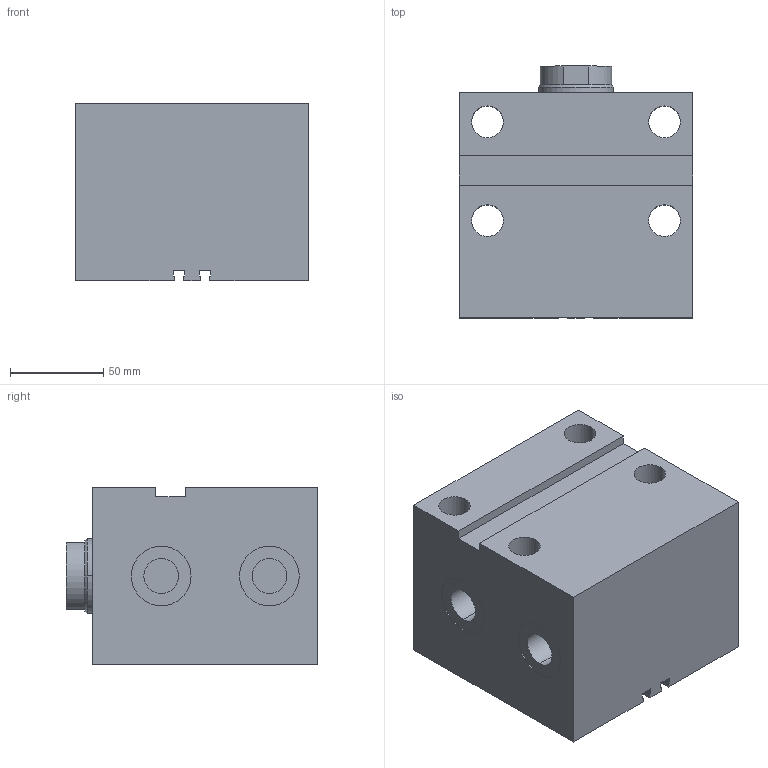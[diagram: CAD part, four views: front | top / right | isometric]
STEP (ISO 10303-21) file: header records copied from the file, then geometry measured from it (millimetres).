
FILE_DESCRIPTION (( 'STEP AP203' ), '1' );
FILE_NAME ('GERMA_Blockzylinder_701-063-030.STEP', '2016-07-26T09:28:27', ( '' ), ( '' ), 'SwSTEP 2.0', 'SolidWorks 2015', '' );
FILE_SCHEMA (( 'CONFIG_CONTROL_DESIGN' ));
Length unit declared in the file: millimetre
Products named in the file (3): GH-700-063_GH-701-063-030; Kolben_MT 70x-063_Kolben_MT DU.63-Hub30-IG; GERMA_Blockzylinder_701-063-030
Assembly tree (2 placements, depth 2):
  GERMA_Blockzylinder_701-063-030
    GH-700-063_GH-701-063-030
    Kolben_MT 70x-063_Kolben_MT DU.63-Hub30-IG
Bounding box: 125 x 135 x 95 mm (x, y, z)
Volume: 1258856 mm3; surface area: 150988.7 mm2
Topology: 2 solids, 2 shells, 96 faces, 226 edges, 142 vertices
Faces by surface type: plane 43, cylinder 39, cone 14
Entity records: 3042 total; most frequent: DIRECTION 511, CARTESIAN_POINT 463, ORIENTED_EDGE 440, EDGE_CURVE 220, AXIS2_PLACEMENT_3D 190, VERTEX_POINT 142, LINE 131, VECTOR 131
